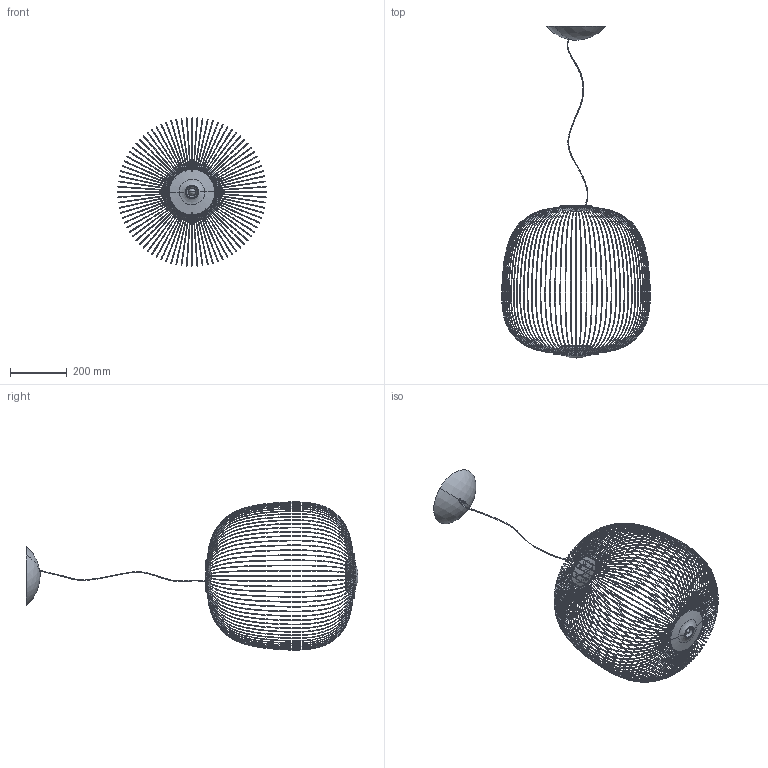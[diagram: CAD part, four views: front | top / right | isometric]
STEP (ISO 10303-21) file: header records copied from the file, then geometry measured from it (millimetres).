
FILE_DESCRIPTION (( 'STEP AP203' ), '1' );
FILE_NAME ('264_2_S_LD_3D.STEP', '2021-03-30T10:34:21', ( '' ), ( '' ), 'SwSTEP 2.0', 'SolidWorks 2021', '' );
FILE_SCHEMA (( 'CONFIG_CONTROL_DESIGN' ));
Length unit declared in the file: millimetre
Products named in the file (1): 264_2_S_LD_3D
Bounding box: 525.78 x 1174.01 x 524.44 mm (x, y, z)
Surface area: 709852.5 mm2 (no closed solid volume)
Topology: 0 solids, 121 shells, 2372 faces, 7014 edges, 4599 vertices
Faces by surface type: torus 1972, plane 165, cone 103, bspline 95, cylinder 29, sphere 8
Entity records: 92399 total; most frequent: CARTESIAN_POINT 30154, DIRECTION 14894, ORIENTED_EDGE 11521, AXIS2_PLACEMENT_3D 7224, EDGE_CURVE 7012, CIRCLE 4946, VERTEX_POINT 4599, EDGE_LOOP 2430
